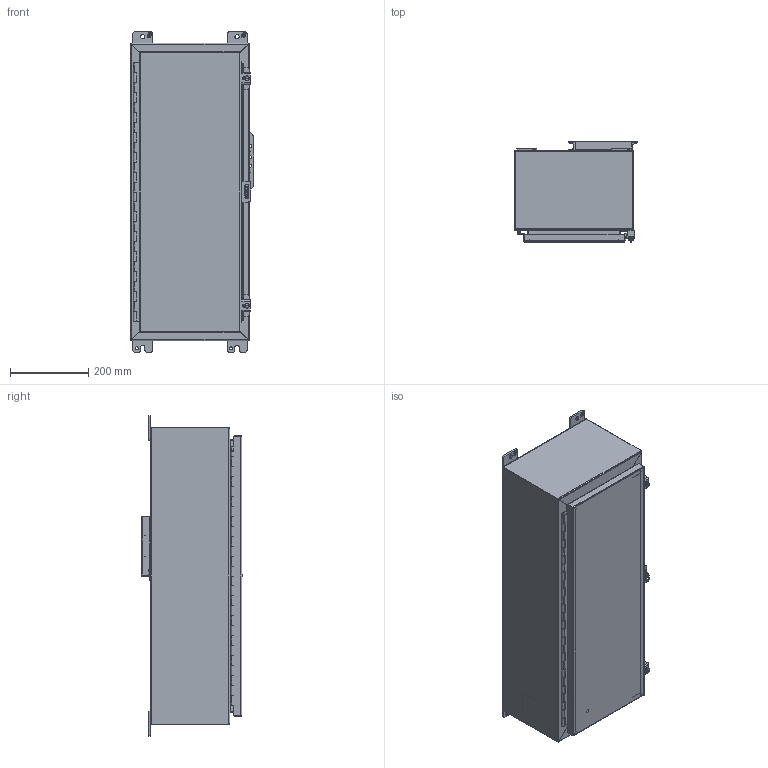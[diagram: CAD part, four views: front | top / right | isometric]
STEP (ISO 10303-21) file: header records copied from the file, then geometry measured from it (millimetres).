
FILE_DESCRIPTION(/* description */ ('Unknown'),/* implementation_level */ '2;1');
FILE_NAME(/* name */ '1418KA8LP',/* time_stamp */ '2026-02-20T16:33:13-05:00',/* author */ ('Unknown'),/* organization */ ('Unknown'),/* preprocessor_version */ 'ST-DEVELOPER v18.104',/* originating_system */ 'Solid Edge',/* authorisation */ 'Unknown');
FILE_SCHEMA (('AUTOMOTIVE_DESIGN {1 0 10303 214 3 1 1}'));
Length unit declared in the file: millimetre
Products named in the file (30): 1418KA8LP; STD26094; STD21878; COM42780; KIT90518; WAF25059; NTS166105; LAB30005; COM40153-1; COM71780-15; COM40153-2; COM70219_oa_0; HNG10620-26C; PNT11078; COM48480; FET07710; HNG10620-26P; AKT90223; SPR20265; SCC19011; WAF25035; COM42667; HNG10620-26B; BUL10020; QLB30109; PKT66; KIT90256; NTS165305; NTS16535
Assembly tree (40 placements, depth 3):
  1418KA8LP
    STD26094  x4
    STD21878
    COM42780  x2
    KIT90518
      WAF25059
      NTS166105
      LAB30005
    COM40153-1
    COM71780-15
      COM40153-2
      COM70219_oa_0
      HNG10620-26C
      COM71780-15
      STD21878
      PNT11078
    COM48480
    FET07710  x4
    HNG10620-26P
    AKT90223  x2
      SPR20265
      SCC19011
      WAF25035
      COM42667
    HNG10620-26B
    BUL10020
    QLB30109
    PKT66
    KIT90256
      LAB30005
      NTS165305
      NTS16535
    PNT11078
Bounding box: 315.37 x 257.18 x 819.15 mm (x, y, z)
Volume: 2194797.7 mm3; surface area: 2352014.5 mm2
Topology: 34 solids, 35 shells, 1235 faces, 3171 edges, 2034 vertices
Faces by surface type: plane 828, cylinder 310, bspline 49, cone 26, torus 20, sphere 2
Full cylindrical faces by diameter (mm): 3.175 x1, 4.763 x1, 4.976 x1, 5.41 x2, 6.198 x2, 6.35 x3, 6.731 x2, 7.137 x2, 7.805 x1, 7.938 x4, 8.382 x4, 9.525 x4, 9.906 x2, 11.113 x4, 11.303 x1, 12.7 x2, 16.51 x4, 25.4 x1, 88.9 x1
Entity records: 31369 total; most frequent: CARTESIAN_POINT 8539, ORIENTED_EDGE 4592, DIRECTION 4323, EDGE_CURVE 2296, LINE 1593, VECTOR 1593, VERTEX_POINT 1477, AXIS2_PLACEMENT_3D 1365
